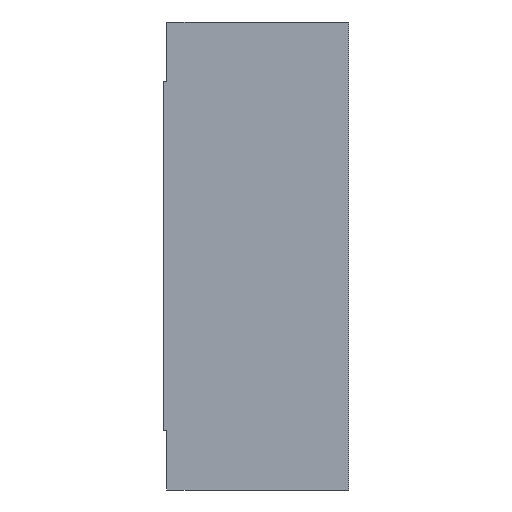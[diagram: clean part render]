
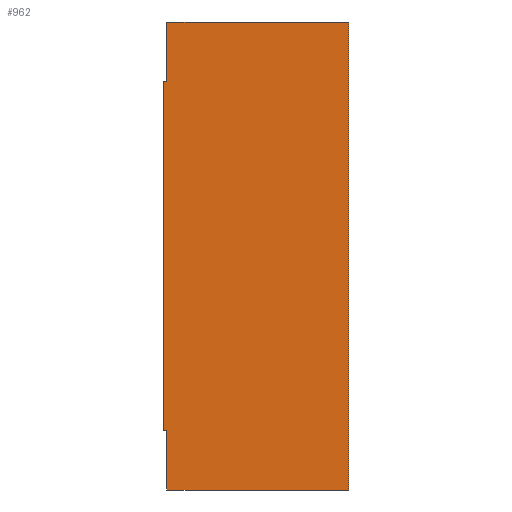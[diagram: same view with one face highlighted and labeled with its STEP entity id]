
A CAD part, left-side view. The second image highlights one B-rep face of the part: STEP entity #962.
In plain terms, the highlighted planar face has unit normal (-1, 0, 0).
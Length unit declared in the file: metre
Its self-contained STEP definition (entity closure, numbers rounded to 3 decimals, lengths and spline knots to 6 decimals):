
#188=ORIENTED_EDGE('',*,*,#332,.T.);
#189=ORIENTED_EDGE('',*,*,#392,.F.);
#190=ORIENTED_EDGE('',*,*,#386,.T.);
#191=ORIENTED_EDGE('',*,*,#382,.T.);
#192=ORIENTED_EDGE('',*,*,#391,.F.);
#193=ORIENTED_EDGE('',*,*,#393,.T.);
#194=ORIENTED_EDGE('',*,*,#335,.F.);
#195=ORIENTED_EDGE('',*,*,#394,.F.);
#332=EDGE_CURVE('',#449,#451,#550,.T.);
#335=EDGE_CURVE('',#454,#455,#553,.T.);
#382=EDGE_CURVE('',#489,#490,#591,.T.);
#386=EDGE_CURVE('',#493,#489,#595,.T.);
#391=EDGE_CURVE('',#496,#490,#600,.T.);
#392=EDGE_CURVE('',#493,#451,#601,.T.);
#393=EDGE_CURVE('',#496,#455,#602,.T.);
#394=EDGE_CURVE('',#449,#454,#603,.T.);
#449=VERTEX_POINT('',#1413);
#451=VERTEX_POINT('',#1417);
#454=VERTEX_POINT('',#1424);
#455=VERTEX_POINT('',#1426);
#489=VERTEX_POINT('',#1525);
#490=VERTEX_POINT('',#1526);
#493=VERTEX_POINT('',#1534);
#496=VERTEX_POINT('',#1542);
#550=LINE('',#1418,#630);
#553=LINE('',#1425,#633);
#591=LINE('',#1524,#671);
#595=LINE('',#1533,#675);
#600=LINE('',#1543,#680);
#601=LINE('',#1545,#681);
#602=LINE('',#1546,#682);
#603=LINE('',#1547,#683);
#630=VECTOR('',#1128,1.);
#633=VECTOR('',#1133,1.);
#671=VECTOR('',#1225,1.);
#675=VECTOR('',#1231,1.);
#680=VECTOR('',#1238,1.);
#681=VECTOR('',#1241,1.);
#682=VECTOR('',#1242,1.);
#683=VECTOR('',#1243,1.);
#734=EDGE_LOOP('',(#188,#189,#190,#191,#192,#193,#194,#195));
#828=FACE_BOUND('',#734,.T.);
#927=PLANE('',#1049);
#962=ADVANCED_FACE('',(#828),#927,.F.);
#1049=AXIS2_PLACEMENT_3D('',#1544,#1239,#1240);
#1128=DIRECTION('',(0.,-1.,0.));
#1133=DIRECTION('',(0.,-1.,0.));
#1225=DIRECTION('',(0.,0.,1.));
#1231=DIRECTION('',(0.,-1.,0.));
#1238=DIRECTION('',(0.,-1.,0.));
#1239=DIRECTION('',(1.,0.,0.));
#1240=DIRECTION('',(0.,0.,-1.));
#1241=DIRECTION('',(0.,0.,1.));
#1242=DIRECTION('',(0.,0.,-1.));
#1243=DIRECTION('',(0.,0.,1.));
#1413=CARTESIAN_POINT('',(0.,0.0265,-0.0585));
#1417=CARTESIAN_POINT('',(0.,0.026,-0.0585));
#1418=CARTESIAN_POINT('',(0.,0.0265,-0.0585));
#1424=CARTESIAN_POINT('',(0.,0.0265,-0.0085));
#1425=CARTESIAN_POINT('',(0.,0.0265,-0.0085));
#1426=CARTESIAN_POINT('',(0.,0.026,-0.0085));
#1524=CARTESIAN_POINT('',(0.,0.,0.));
#1525=CARTESIAN_POINT('',(0.,0.,-0.067));
#1526=CARTESIAN_POINT('',(0.,0.,0.));
#1533=CARTESIAN_POINT('',(0.,0.0265,-0.067));
#1534=CARTESIAN_POINT('',(0.,0.026,-0.067));
#1542=CARTESIAN_POINT('',(0.,0.026,0.));
#1543=CARTESIAN_POINT('',(0.,0.0265,0.));
#1544=CARTESIAN_POINT('',(0.,0.0265,0.));
#1545=CARTESIAN_POINT('',(0.,0.026,-0.067));
#1546=CARTESIAN_POINT('',(0.,0.026,0.));
#1547=CARTESIAN_POINT('',(0.,0.0265,0.));
